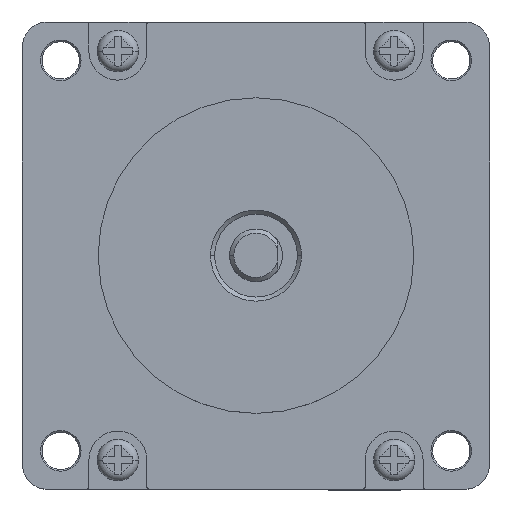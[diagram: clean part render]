
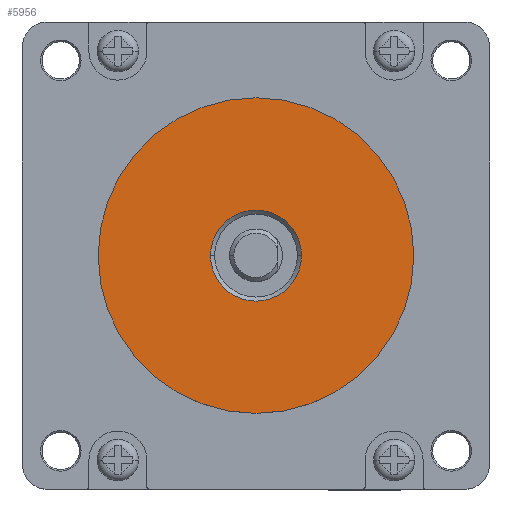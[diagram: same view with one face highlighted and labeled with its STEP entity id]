
A CAD part, top view. The second image highlights one B-rep face of the part: STEP entity #5956.
In plain terms, the highlighted planar face has unit normal (0, 0, 1).
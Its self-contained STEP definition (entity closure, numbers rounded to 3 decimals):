
#627 = AXIS2_PLACEMENT_3D ( 'NONE', #2236, #2239, #2240 ) ;
#636 = AXIS2_PLACEMENT_3D ( 'NONE', #2216, #2224, #2225 ) ;
#959 = CIRCLE ( 'NONE', #6596, 19.05 ) ;
#976 = CIRCLE ( 'NONE', #6601, 5.5 ) ;
#1159 = CIRCLE ( 'NONE', #636, 5.5 ) ;
#1167 = CIRCLE ( 'NONE', #627, 19.05 ) ;
#1771 = ORIENTED_EDGE ( 'NONE', *, *, #7975, .T. ) ;
#1772 = ORIENTED_EDGE ( 'NONE', *, *, #8151, .T. ) ;
#1773 = ORIENTED_EDGE ( 'NONE', *, *, #8145, .T. ) ;
#1774 = ORIENTED_EDGE ( 'NONE', *, *, #7986, .T. ) ;
#2216 = CARTESIAN_POINT ( 'NONE',  ( 0., 0., 4.1 ) ) ;
#2224 = DIRECTION ( 'NONE',  ( 0., 0., -1. ) ) ;
#2225 = DIRECTION ( 'NONE',  ( 1., 0., 0. ) ) ;
#2236 = CARTESIAN_POINT ( 'NONE',  ( 0., 0., 4.1 ) ) ;
#2239 = DIRECTION ( 'NONE',  ( 0., 0., 1. ) ) ;
#2240 = DIRECTION ( 'NONE',  ( 1., 0., 0. ) ) ;
#3022 = CARTESIAN_POINT ( 'NONE',  ( 0., 0., 4.1 ) ) ;
#3023 = PLANE ( 'NONE',  #6424 ) ;
#3024 = DIRECTION ( 'NONE',  ( 0., 0., 1. ) ) ;
#3025 = DIRECTION ( 'NONE',  ( 1., 0., 0. ) ) ;
#3686 = CARTESIAN_POINT ( 'NONE',  ( 19.05, 0., 4.1 ) ) ;
#3849 = CARTESIAN_POINT ( 'NONE',  ( -5.5, 0., 4.1 ) ) ;
#3888 = CARTESIAN_POINT ( 'NONE',  ( 5.5, 0., 4.1 ) ) ;
#3926 = CARTESIAN_POINT ( 'NONE',  ( -19.05, 0., 4.1 ) ) ;
#4133 = CARTESIAN_POINT ( 'NONE',  ( 0., 0., 4.1 ) ) ;
#4142 = DIRECTION ( 'NONE',  ( 0., 0., 1. ) ) ;
#4143 = DIRECTION ( 'NONE',  ( 1., 0., 0. ) ) ;
#4155 = CARTESIAN_POINT ( 'NONE',  ( 0., 0., 4.1 ) ) ;
#4171 = DIRECTION ( 'NONE',  ( 0., 0., -1. ) ) ;
#4172 = DIRECTION ( 'NONE',  ( 1., 0., 0. ) ) ;
#4568 = FACE_BOUND ( 'NONE', #5685, .T. ) ;
#4573 = FACE_OUTER_BOUND ( 'NONE', #5664, .T. ) ;
#5664 = EDGE_LOOP ( 'NONE', ( #1772, #1771 ) ) ;
#5685 = EDGE_LOOP ( 'NONE', ( #1774, #1773 ) ) ;
#5956 = ADVANCED_FACE ( 'NONE', ( #4568, #4573 ), #3023, .T. ) ;
#6424 = AXIS2_PLACEMENT_3D ( 'NONE', #3022, #3024, #3025 ) ;
#6596 = AXIS2_PLACEMENT_3D ( 'NONE', #4133, #4142, #4143 ) ;
#6601 = AXIS2_PLACEMENT_3D ( 'NONE', #4155, #4171, #4172 ) ;
#7102 = VERTEX_POINT ( 'NONE', #3686 ) ;
#7379 = VERTEX_POINT ( 'NONE', #3849 ) ;
#7429 = VERTEX_POINT ( 'NONE', #3888 ) ;
#7499 = VERTEX_POINT ( 'NONE', #3926 ) ;
#7975 = EDGE_CURVE ( 'NONE', #7102, #7499, #959, .T. ) ;
#7986 = EDGE_CURVE ( 'NONE', #7429, #7379, #976, .T. ) ;
#8145 = EDGE_CURVE ( 'NONE', #7379, #7429, #1159, .T. ) ;
#8151 = EDGE_CURVE ( 'NONE', #7499, #7102, #1167, .T. ) ;
